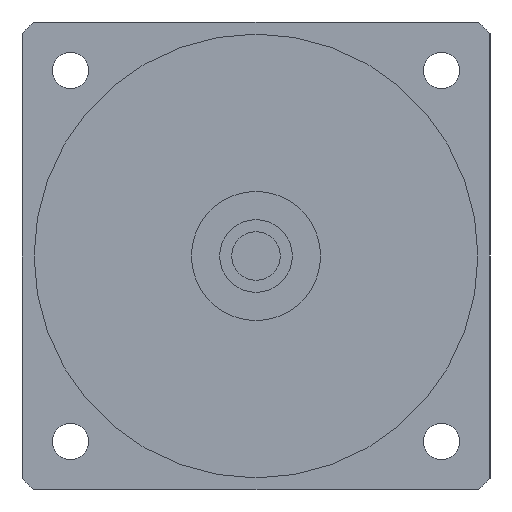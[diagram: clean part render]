
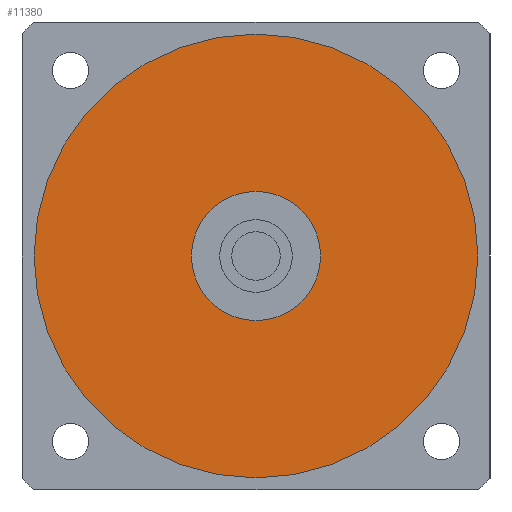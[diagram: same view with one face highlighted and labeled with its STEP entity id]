
A CAD part, left-side view. The second image highlights one B-rep face of the part: STEP entity #11380.
In plain terms, the highlighted planar face has unit normal (-1, 0, 0) as drawn and (0, 0, -1) by its records, which use the part's own axes.
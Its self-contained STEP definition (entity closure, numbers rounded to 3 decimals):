
#10720=CARTESIAN_POINT('',(-16.,0.,-32.5));
#10730=VERTEX_POINT('',#10720);
#10780=CARTESIAN_POINT('',(0.,0.,
-32.5));
#10790=DIRECTION('',(0.,0.,1.));
#10800=DIRECTION('',(0.,1.,0.));
#10810=AXIS2_PLACEMENT_3D('',#10780,#10790,#10800);
#10820=CIRCLE('',#10810,16.);
#10830=CARTESIAN_POINT('',(16.,0.,-32.5));
#10840=VERTEX_POINT('',#10830);
#10850=EDGE_CURVE('',#10730,#10840,#10820,.T.);
#11050=CARTESIAN_POINT('',(0.,0.,
-32.5));
#11060=DIRECTION('',(0.,0.,1.));
#11070=DIRECTION('',(-1.,0.,0.));
#11080=AXIS2_PLACEMENT_3D('',#11050,#11060,#11070);
#11090=PLANE('',#11080);
#11100=CARTESIAN_POINT('',(0.,0.,
-32.5));
#11110=DIRECTION('',(0.,0.,1.));
#11120=DIRECTION('',(0.,1.,0.));
#11130=AXIS2_PLACEMENT_3D('',#11100,#11110,#11120);
#11140=CIRCLE('',#11130,55.);
#11150=CARTESIAN_POINT('',(0.,55.,-32.5));
#11160=VERTEX_POINT('',#11150);
#11170=CARTESIAN_POINT('',(-55.,0.,-32.5));
#11180=VERTEX_POINT('',#11170);
#11190=EDGE_CURVE('',#11160,#11180,#11140,.T.);
#11200=ORIENTED_EDGE('',*,*,#11190,.F.);
#11210=CARTESIAN_POINT('',(55.,0.,-32.5));
#11220=VERTEX_POINT('',#11210);
#11230=EDGE_CURVE('',#11180,#11220,#11140,.T.);
#11240=ORIENTED_EDGE('',*,*,#11230,.F.);
#11250=EDGE_CURVE('',#11220,#11160,#11140,.T.);
#11260=ORIENTED_EDGE('',*,*,#11250,.F.);
#11270=EDGE_LOOP('',(#11260,#11240,#11200));
#11280=FACE_OUTER_BOUND('',#11270,.T.);
#11290=ORIENTED_EDGE('',*,*,#10850,.T.);
#11300=CARTESIAN_POINT('',(0.,16.,-32.5));
#11310=VERTEX_POINT('',#11300);
#11320=EDGE_CURVE('',#11310,#10730,#10820,.T.);
#11330=ORIENTED_EDGE('',*,*,#11320,.T.);
#11340=EDGE_CURVE('',#10840,#11310,#10820,.T.);
#11350=ORIENTED_EDGE('',*,*,#11340,.T.);
#11360=EDGE_LOOP('',(#11350,#11330,#11290));
#11370=FACE_BOUND('',#11360,.T.);
#11380=ADVANCED_FACE('',(#11280,#11370),#11090,.F.);
